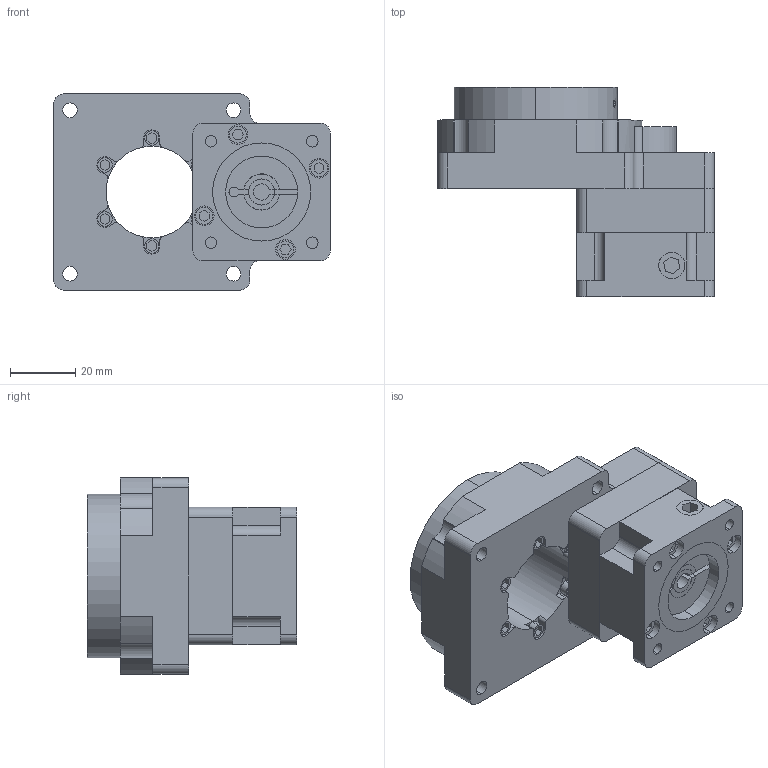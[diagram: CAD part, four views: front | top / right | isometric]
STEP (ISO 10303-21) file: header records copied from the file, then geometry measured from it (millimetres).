
FILE_DESCRIPTION (( 'STEP AP214' ), '1' );
FILE_NAME ('TS60-5K-42²½½øF5.STEP', '2020-07-16T02:00:04', ( '' ), ( '' ), 'SwSTEP 2.0', 'SolidWorks 2020', '' );
FILE_SCHEMA (( 'AUTOMOTIVE_DESIGN' ));
Length unit declared in the file: millimetre
Products named in the file (4): 4; 8曹5粣杶; TS60-5K-42祭輛F5; TS60-5K-42祭輛
Assembly tree (3 placements, depth 2):
  TS60-5K-42祭輛F5
    TS60-5K-42祭輛
    8曹5粣杶
    4
Bounding box: 84.6 x 64 x 60 mm (x, y, z)
Volume: 127220.5 mm3; surface area: 40065.9 mm2
Topology: 5 solids, 11 shells, 412 faces, 1031 edges, 664 vertices
Faces by surface type: cylinder 195, plane 189, cone 28
Entity records: 12584 total; most frequent: CARTESIAN_POINT 2278, DIRECTION 2235, ORIENTED_EDGE 2006, EDGE_CURVE 1003, AXIS2_PLACEMENT_3D 822, VERTEX_POINT 664, VECTOR 591, LINE 591
